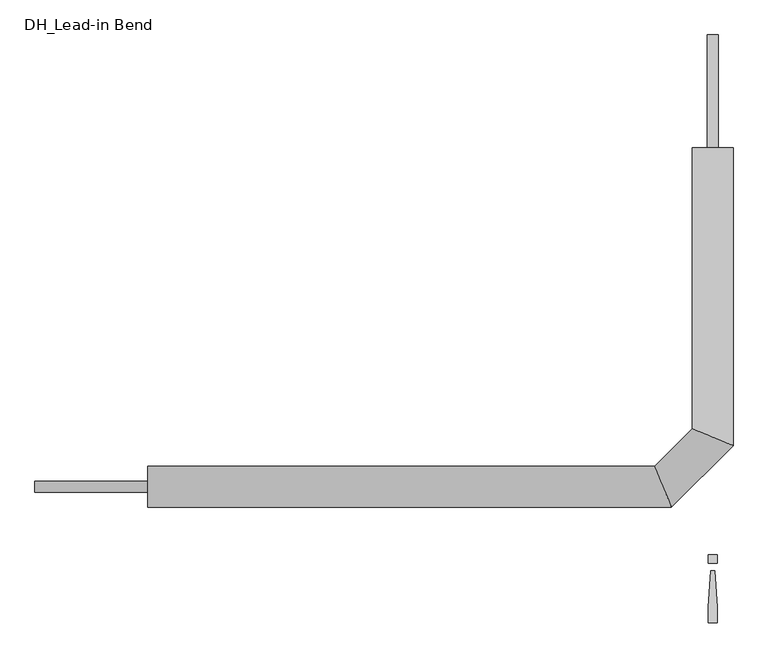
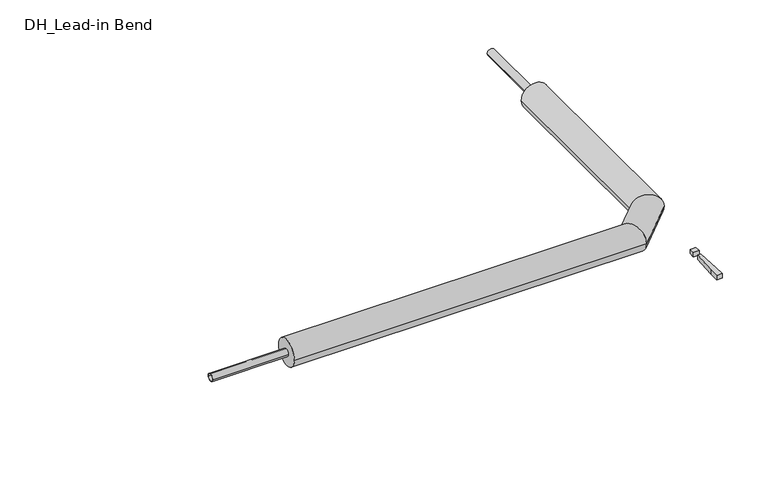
"""IFC4 building model written with IfcOpenShell, lengths in millimetres: pipe fitting geometry, DH_Lead-in Bend : INSULPEX UNO + 11 Heating."""

import ifcopenshell
import ifcopenshell.guid

model = None  # the IFC model being written
_history = None  # IfcOwnerHistory: only IFC2X3 demands one
_inside = {}  # id of a spatial element -> (the spatial element, [elements in it])
_under = {}  # id of a project, library or spatial element -> (it, [spatial elements below it])
_declared = {}  # id of a project -> (the project, [libraries it declares])
_typed = {}  # id of a type object -> (the type object, [elements of that type])
_made_of = {}  # id of a material, layer set ... -> (it, [elements and type objects made of it])


def new_model(schema):
    """Start an empty IFC model of exactly this schema.

    Asked for "IFC4X3", IfcOpenShell would pick the latest addendum, in which some entities
    have other attributes; the version numbers below select the first issue.
    IFC2X3 requires an IfcOwnerHistory on every rooted entity: one is made here for all.
    """
    global model, _history
    if schema == "IFC4X3":
        model = ifcopenshell.file(schema_version=(4, 3, 0, 0))
    else:
        model = ifcopenshell.file(schema=schema)
    _inside.clear()
    _under.clear()
    _declared.clear()
    _typed.clear()
    _made_of.clear()
    _history = None
    if model.schema == "IFC2X3":
        org = make("IfcOrganization", Name="unknown")
        user = make(
            "IfcPersonAndOrganization",
            ThePerson=make("IfcPerson", FamilyName="unknown"),
            TheOrganization=org,
        )
        app = make(
            "IfcApplication",
            ApplicationDeveloper=org,
            Version="unknown",
            ApplicationFullName="unknown",
            ApplicationIdentifier="unknown",
        )
        _history = make(
            "IfcOwnerHistory",
            OwningUser=user,
            OwningApplication=app,
            ChangeAction="ADDED",
            CreationDate=0,
        )
    return model


def make(cls, **values):
    """One entity of the class cls with the attributes given. An attribute that is None is left unset."""
    return model.create_entity(
        cls, **{name: value for name, value in values.items() if value is not None}
    )


def rooted(cls, **values):
    """An entity with a GlobalId (a new one), such as an element, a storey or a relation."""
    return make(cls, GlobalId=ifcopenshell.guid.new(), OwnerHistory=_history, **values)


def si_unit(unit_type, name, prefix=None):
    """IfcSIUnit, for example si_unit("LENGTHUNIT", "METRE", prefix="MILLI")."""
    return make("IfcSIUnit", UnitType=unit_type, Prefix=prefix, Name=name)


def assignment(units):
    """IfcUnitAssignment: the units of a project."""
    return None if units is None else make("IfcUnitAssignment", Units=units)


def point(xyz):
    """IfcCartesianPoint."""
    return None if xyz is None else make("IfcCartesianPoint", Coordinates=xyz)


def direction(xyz):
    """IfcDirection."""
    return None if xyz is None else make("IfcDirection", DirectionRatios=xyz)


def frame(location, z_axis=None, x_axis=None):
    """IfcAxis2Placement3D, a coordinate frame: its origin and axes. An axis left out is left unset."""
    return make(
        "IfcAxis2Placement3D",
        Location=point(location),
        Axis=direction(z_axis),
        RefDirection=direction(x_axis),
    )


def frame_2d(location, x_axis=None):
    """IfcAxis2Placement2D, a coordinate frame in the plane: its origin and x axis."""
    return make(
        "IfcAxis2Placement2D", Location=point(location), RefDirection=direction(x_axis)
    )


def origin():
    """The frame at (0, 0, 0) with its axes left unset."""
    return frame((0.0, 0.0, 0.0))


def origin_with_axes():
    """The frame at (0, 0, 0) with the z axis (0, 0, 1) and the x axis (1, 0, 0) written out."""
    return frame((0.0, 0.0, 0.0), z_axis=(0.0, 0.0, 1.0), x_axis=(1.0, 0.0, 0.0))


def origin_2d():
    """The frame at (0, 0) in the plane with its x axis left unset."""
    return frame_2d((0.0, 0.0))


def place(relative_to, where):
    """IfcLocalPlacement: puts the frame where relative to a parent placement (None: the world)."""
    return make(
        "IfcLocalPlacement", PlacementRelTo=relative_to, RelativePlacement=where
    )


def context(
    kind, dimensions, precision=None, world=None, true_north=None, identifier=None
):
    """IfcGeometricRepresentationContext, for example the 3D "Model" context."""
    return make(
        "IfcGeometricRepresentationContext",
        ContextIdentifier=identifier,
        ContextType=kind,
        CoordinateSpaceDimension=dimensions,
        Precision=precision,
        WorldCoordinateSystem=world,
        TrueNorth=true_north,
    )


def project(units=None, contexts=None):
    """IfcProject with its units and contexts."""
    return rooted(
        "IfcProject",
        Name="project",
        RepresentationContexts=contexts,
        UnitsInContext=assignment(units),
    )


def spatial(cls, under=None, at=None, **own):
    """A site, building, storey or space (cls), placed at a placement, below another one or the project."""
    s = rooted(cls, ObjectPlacement=at, **own)
    if under is not None:
        _under.setdefault(under.id(), (under, []))[1].append(s)
    return s


def polyline(points):
    """IfcPolyline through the points."""
    return make("IfcPolyline", Points=[point(p) for p in points])


def circle_curve(where, radius):
    """IfcCircle in the frame where."""
    return make("IfcCircle", Position=where, Radius=radius)


def ellipse_curve(where, semi_axis1, semi_axis2):
    """IfcEllipse in the frame where."""
    return make(
        "IfcEllipse", Position=where, SemiAxis1=semi_axis1, SemiAxis2=semi_axis2
    )


def trimmed(basis, trim1, trim2, sense, master):
    """IfcTrimmedCurve: the piece of a basis curve between two trims."""
    return make(
        "IfcTrimmedCurve",
        BasisCurve=basis,
        Trim1=trim1,
        Trim2=trim2,
        SenseAgreement=sense,
        MasterRepresentation=master,
    )


def segment(curve, same_sense, transition):
    """IfcCompositeCurveSegment."""
    return make(
        "IfcCompositeCurveSegment",
        Transition=transition,
        SameSense=same_sense,
        ParentCurve=curve,
    )


def composite_curve(segments, self_intersect=None):
    """IfcCompositeCurve: segments joined end to end."""
    return make("IfcCompositeCurve", Segments=segments, SelfIntersect=self_intersect)


def outline(outer, holes=None, kind="AREA"):
    """IfcArbitraryClosedProfileDef: a profile drawn as a closed curve; with holes, ...WithVoids."""
    if holes is None:
        return make("IfcArbitraryClosedProfileDef", ProfileType=kind, OuterCurve=outer)
    return make(
        "IfcArbitraryProfileDefWithVoids",
        ProfileType=kind,
        OuterCurve=outer,
        InnerCurves=holes,
    )


def extrude(swept, where, along, depth):
    """IfcExtrudedAreaSolid: the profile swept, set in the frame where, extruded along a direction by depth."""
    return make(
        "IfcExtrudedAreaSolid",
        SweptArea=swept,
        Position=where,
        ExtrudedDirection=direction(along),
        Depth=depth,
    )


def shape(context_of_items, identifier, shape_type, items):
    """IfcShapeRepresentation: the items that make up one representation, for example the "Body"."""
    return make(
        "IfcShapeRepresentation",
        ContextOfItems=context_of_items,
        RepresentationIdentifier=identifier,
        RepresentationType=shape_type,
        Items=items,
    )


def source(mapping_origin, context_of_items, identifier, shape_type, items):
    """IfcRepresentationMap: a shape defined once, which mapped items show again and again."""
    return make(
        "IfcRepresentationMap",
        MappingOrigin=mapping_origin,
        MappedRepresentation=shape(context_of_items, identifier, shape_type, items),
    )


def transform(
    local_origin,
    x_axis=None,
    y_axis=None,
    z_axis=None,
    scale=None,
    scale2=None,
    scale3=None,
    uniform=True,
):
    """IfcCartesianTransformationOperator3D, or its non-uniform kind. x_axis, y_axis, z_axis: its Axis1, 2, 3."""
    if uniform:
        return make(
            "IfcCartesianTransformationOperator3D",
            Axis1=direction(x_axis),
            Axis2=direction(y_axis),
            LocalOrigin=point(local_origin),
            Scale=scale,
            Axis3=direction(z_axis),
        )
    return make(
        "IfcCartesianTransformationOperator3DnonUniform",
        Axis1=direction(x_axis),
        Axis2=direction(y_axis),
        LocalOrigin=point(local_origin),
        Scale=scale,
        Axis3=direction(z_axis),
        Scale2=scale2,
        Scale3=scale3,
    )


def mapped(mapping_source, mapping_target):
    """IfcMappedItem: shows the shape of a source again, moved by a transform."""
    return make(
        "IfcMappedItem", MappingSource=mapping_source, MappingTarget=mapping_target
    )


def made_of(thing, what):
    """Note that an element or type object is made of a material, layer set ...; save() writes the relation."""
    if what is not None:
        _made_of.setdefault(what.id(), (what, []))[1].append(thing)
    return thing


def element(
    cls,
    number,
    at=None,
    inside=None,
    cuts=None,
    type_object=None,
    material=None,
    context=None,
    identifier="Body",
    shape_type=None,
    held_by="IfcProductDefinitionShape",
    body=None,
    shapes=None,
    **own,
):
    """One element of the class cls, such as IfcWall. Its Tag is "e" and its number.

    at: its placement. inside: the storey or other place that contains it. cuts: it is an
    opening in that element (IfcRelVoidsElement). A single representation is given by context,
    identifier, shape_type and body (its items); several are given by shapes. held_by: the class
    of the entity that holds the representations. save() writes the other relations.
    """
    e = rooted(cls, Tag="e%d" % number, ObjectPlacement=at, **own)
    if body is not None:
        shapes = [shape(context, identifier, shape_type, body)]
    if shapes is not None:
        e.Representation = make(held_by, Representations=shapes)
    if inside is not None:
        _inside.setdefault(inside.id(), (inside, []))[1].append(e)
    if cuts is not None:
        rooted(
            "IfcRelVoidsElement", RelatingBuildingElement=cuts, RelatedOpeningElement=e
        )
    if type_object is not None:
        _typed.setdefault(type_object.id(), (type_object, []))[1].append(e)
    return made_of(e, material)


def aggregate(whole, parts):
    """IfcRelAggregates: a whole, such as a stair, and the parts it consists of."""
    return rooted("IfcRelAggregates", RelatingObject=whole, RelatedObjects=parts)


def save(model, path):
    """Write the relations noted so far, then the file.

    IfcRelAggregates (storeys below a building ...), IfcRelContainedInSpatialStructure (elements
    in a storey), IfcRelDefinesByType, IfcRelAssociatesMaterial and IfcRelDeclares: one each for
    every whole, place, type object, material and project.
    """
    for whole, parts in _under.values():
        aggregate(whole, parts)
    for where, things in _inside.values():
        rooted(
            "IfcRelContainedInSpatialStructure",
            RelatedElements=things,
            RelatingStructure=where,
        )
    for kind, things in _typed.values():
        rooted("IfcRelDefinesByType", RelatedObjects=things, RelatingType=kind)
    for what, things in _made_of.values():
        rooted("IfcRelAssociatesMaterial", RelatedObjects=things, RelatingMaterial=what)
    for by, libraries in _declared.values():
        rooted("IfcRelDeclares", RelatingContext=by, RelatedDefinitions=libraries)
    model.write(path)


def plane_surface(at):
    """IfcPlane: the flat surface through the origin of the frame at, square to its z axis."""
    return make("IfcPlane", Position=at)


def cylinder_surface(at, radius):
    """IfcCylindricalSurface: all points at the distance radius from the z axis of the frame at."""
    return make("IfcCylindricalSurface", Position=at, Radius=radius)


def advanced_brep(points, edges, surfaces, faces):
    """IfcAdvancedBrep: a solid bounded by faces that lie on surfaces and meet in shared edges.

    An edge is (start, end): straight between two places in points (the first is 0);
    or (start, end, curve); or (start, end, curve, False) where it runs against its curve.
    A face is (place in surfaces, loops), or (place, loops, False) where it looks against
    its surface's normal. A loop lists edges by number (the first is 1), with a minus sign
    where the edge is run from its end to its start. The first loop is the outer one.
    """
    corners = [point(p) for p in points]
    vertices = [make("IfcVertexPoint", VertexGeometry=c) for c in corners]
    made = []
    for start, end, *more in edges:
        made.append(
            make(
                "IfcEdgeCurve",
                EdgeStart=vertices[start],
                EdgeEnd=vertices[end],
                EdgeGeometry=more[0] if more else make("IfcPolyline", Points=[corners[start], corners[end]]),
                SameSense=more[1] if len(more) > 1 else True,
            )
        )
    hull = []
    for where, loops, *sense in faces:
        bounds = []
        for j, loop in enumerate(loops):
            ring = [make("IfcOrientedEdge", EdgeElement=made[abs(k) - 1], Orientation=k > 0) for k in loop]
            bounds.append(
                make(
                    "IfcFaceOuterBound" if j == 0 else "IfcFaceBound",
                    Bound=make("IfcEdgeLoop", EdgeList=ring),
                    Orientation=True,
                )
            )
        hull.append(make("IfcAdvancedFace", Bounds=bounds, FaceSurface=surfaces[where], SameSense=sense[0] if sense else True))
    return make("IfcAdvancedBrep", Outer=make("IfcClosedShell", CfsFaces=hull))


def dh_lead_in_bend_0a7134a1(model_context):
    return source(origin(), model_context, "Body", "SolidModel", [
        advanced_brep(
        [(-1250.0, -45.0, 0.0), (-1250.0, 45.0, 0.0), (-91.3603897, -45.0, 0.0), (-128.6396103, 45.0, 0.0), (45.0, 750.0, 0.0), (-45.0, 750.0, 0.0), (-45.0, 128.6396103, 0.0), (45.0, 91.3603897, 0.0)],
        [
            (0, 1, circle_curve(frame((-1250.0, 0.0, 0.0), z_axis=(-1.0, 0.0, 0.0), x_axis=(0.0, 1.0, 0.0)), 45.0)),
            (1, 0, circle_curve(frame((-1250.0, 0.0, 0.0), z_axis=(-1.0, 0.0, 0.0), x_axis=(0.0, 1.0, 0.0)), 45.0)),
            (0, 2),
            (2, 3, ellipse_curve(frame((-110.0, 0.0, 0.0), z_axis=(-0.9238795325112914, -0.3826834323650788, 0.0), x_axis=(-0.38268343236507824, 0.9238795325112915, 0.0)), 48.707649, 45.0)),
            (3, 1),
            (3, 2, ellipse_curve(frame((-110.0, 0.0, 0.0), z_axis=(-0.9238795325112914, -0.3826834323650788, 0.0), x_axis=(-0.38268343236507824, 0.9238795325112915, 0.0)), 48.707649, 45.0)),
            (4, 5, circle_curve(frame((0.0, 750.0, 0.0), z_axis=(0.0, 1.0, 0.0), x_axis=(-1.0, 0.0, 0.0)), 45.0)),
            (5, 4, circle_curve(frame((0.0, 750.0, 0.0), z_axis=(0.0, 1.0, 0.0), x_axis=(-1.0, 0.0, 0.0)), 45.0)),
            (6, 7, ellipse_curve(frame((0.0, 110.0, 0.0), z_axis=(0.38268343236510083, 0.9238795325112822, 0.0), x_axis=(0.9238795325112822, -0.3826834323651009, 0.0)), 48.707649, 45.0)),
            (7, 4),
            (5, 6),
            (7, 6, ellipse_curve(frame((0.0, 110.0, 0.0), z_axis=(0.38268343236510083, 0.9238795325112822, 0.0), x_axis=(0.9238795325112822, -0.3826834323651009, 0.0)), 48.707649, 45.0)),
            (2, 7),
            (6, 3),
        ],
        [
            plane_surface(frame((-1250.0, 0.0, 0.0), z_axis=(-1.0, 0.0, 0.0), x_axis=(0.0, 0.0, 1.0))),
            cylinder_surface(frame((-1250.0, 0.0, 0.0), z_axis=(-1.0, 0.0, 0.0), x_axis=(0.0, 1.0, 0.0)), 45.0),
            plane_surface(frame((0.0, 750.0, 0.0), z_axis=(0.0, 1.0, 0.0), x_axis=(0.0, 0.0, 1.0))),
            cylinder_surface(frame((0.0, 110.0, 0.0), z_axis=(0.0, -1.0, 0.0), x_axis=(-1.0, 0.0, 0.0)), 45.0),
            cylinder_surface(frame((-110.0, 0.0, 0.0), z_axis=(-0.7071067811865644, -0.7071067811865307, 0.0), x_axis=(-0.7071067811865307, 0.7071067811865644, 0.0)), 45.0),
        ],
        [
            (0, [[1, 2]]),
            (1, [[-1, 3, 4, 5]]),
            (1, [[-2, -5, 6, -3]]),
            (2, [[7, 8]]),
            (3, [[9, 10, -8, 11]]),
            (3, [[12, -11, -7, -10]]),
            (4, [[-4, 13, -9, 14]]),
            (4, [[-6, -14, -12, -13]]),
        ],
    ),
        extrude(outline(polyline([(4.7088895, -185.3166715), (9.4177791, -266.6553807), (9.4177791, -300.6844652), (-9.4177791, -300.6844652), (-9.4177791, -266.6553807), (-4.7088895, -185.3166715), (4.7088895, -185.3166715)])), origin_with_axes(), (0.0, 0.0, 1.0), 15.0),
        extrude(outline(polyline([(9.4177791, -150.0), (9.4177791, -168.8355582), (-9.4177791, -168.8355582), (-9.4177791, -150.0), (9.4177791, -150.0)])), origin_with_axes(), (0.0, 0.0, 1.0), 15.0),
        extrude(outline(composite_curve([segment(trimmed(circle_curve(origin_2d(), 12.5), [point((-12.5, 0.0))], [point((12.5, 0.0))], False, "CARTESIAN"), True, "CONTINUOUS"), segment(trimmed(circle_curve(origin_2d(), 12.5), [point((12.5, 0.0))], [point((-12.5, 0.0))], False, "CARTESIAN"), True, "CONTINUOUS")], self_intersect=False), holes=[composite_curve([segment(trimmed(circle_curve(origin_2d(), 10.2), [point((-10.2, 0.0))], [point((10.2, 0.0))], True, "CARTESIAN"), True, "CONTINUOUS"), segment(trimmed(circle_curve(origin_2d(), 10.2), [point((10.2, 0.0))], [point((-10.2, 0.0))], True, "CARTESIAN"), True, "CONTINUOUS")], self_intersect=False)]), frame((-1500.0, 0.0, 0.0), z_axis=(1.0, 0.0, 0.0), x_axis=(0.0, 1.0, 0.0)), (0.0, 0.0, 1.0), 250.0),
        extrude(outline(composite_curve([segment(trimmed(circle_curve(origin_2d(), 12.5), [point((0.0, 12.5))], [point((0.0, -12.5))], False, "CARTESIAN"), True, "CONTINUOUS"), segment(trimmed(circle_curve(origin_2d(), 12.5), [point((0.0, -12.5))], [point((0.0, 12.5))], False, "CARTESIAN"), True, "CONTINUOUS")], self_intersect=False), holes=[composite_curve([segment(trimmed(circle_curve(origin_2d(), 10.2), [point((0.0, 10.2))], [point((0.0, -10.2))], True, "CARTESIAN"), True, "CONTINUOUS"), segment(trimmed(circle_curve(origin_2d(), 10.2), [point((0.0, -10.2))], [point((0.0, 10.2))], True, "CARTESIAN"), True, "CONTINUOUS")], self_intersect=False)]), frame((0.0, 750.0, 0.0), z_axis=(0.0, 1.0, 0.0), x_axis=(0.0, 0.0, 1.0)), (0.0, 0.0, 1.0), 250.0),
    ])


if __name__ == "__main__":
    model = new_model("IFC4")
    model_context = context("Model", 3, world=origin())
    ifc_project = project(units=[si_unit("LENGTHUNIT", "METRE", prefix="MILLI")], contexts=[model_context])
    site = spatial("IfcSite", under=ifc_project)
    building = spatial("IfcBuilding", under=site)
    placement = place(None, origin())
    dh_lead_in_bend_shape = dh_lead_in_bend_0a7134a1(model_context)
    element("IfcPipeFitting", 1, ObjectType="DH_Lead-in Bend : INSULPEX UNO + 11 Heating", at=placement, inside=building, context=model_context, shape_type="MappedRepresentation", body=[
        mapped(dh_lead_in_bend_shape, transform((0.0, 0.0, 0.0), x_axis=(1.0, 0.0, 0.0), y_axis=(0.0, 1.0, 0.0), z_axis=(0.0, 0.0, 1.0))),
    ])
    save(model, "model.ifc")
